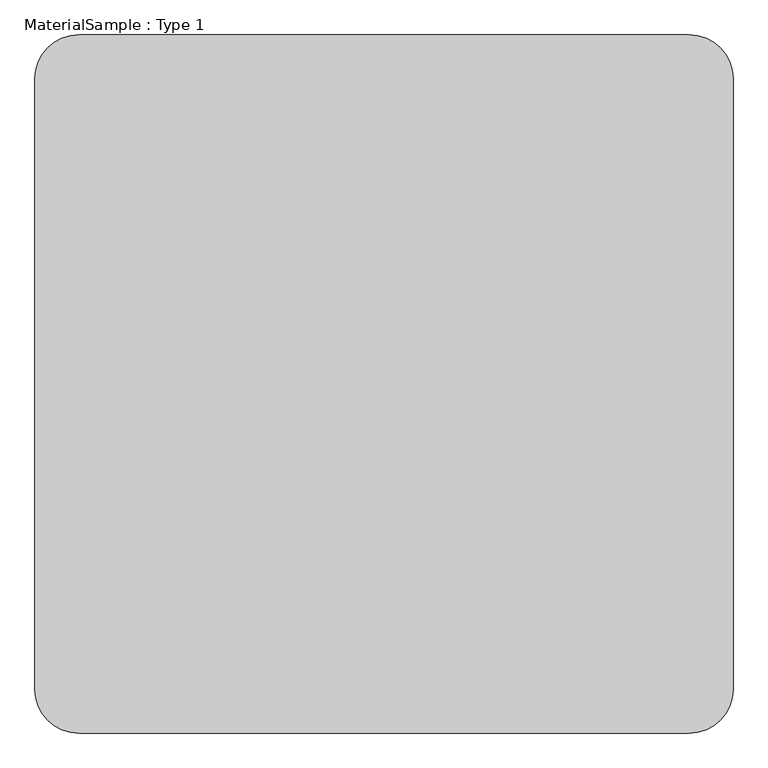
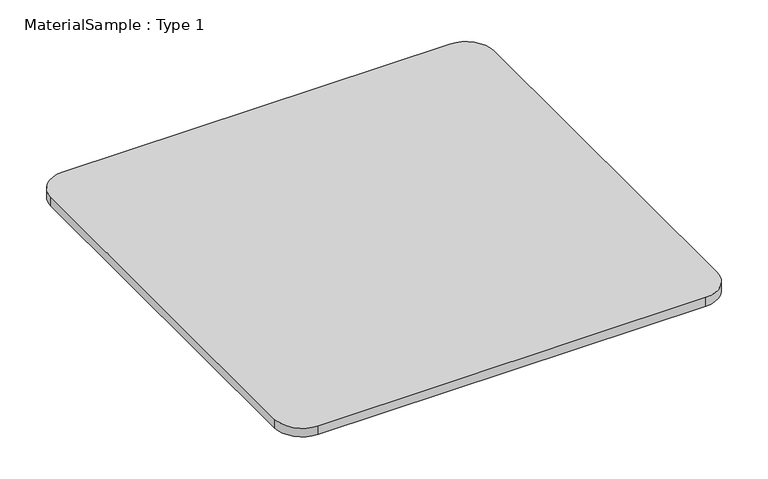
"""IFC4 building model written with IfcOpenShell, lengths in millimetres: proxy geometry, MaterialSample : Type 1."""

from ifc_helpers import new_model, si_unit, point, frame_2d, origin, origin_with_axes, place, context, project, spatial, polyline, circle_curve, trimmed, segment, composite_curve, outline, extrude, source, transform, mapped, element, save


def materialsample_type_1_fd88ffb6(model_context):
    return source(origin(), model_context, "Body", "SweptSolid", [
        extrude(outline(composite_curve([segment(polyline([(1143.0, 0.0), (76.2, 0.0)]), True, "CONTINUOUS"), segment(trimmed(circle_curve(frame_2d((76.2, 76.2)), 76.2), [point((76.2, 0.0))], [point((0.0, 76.2))], False, "CARTESIAN"), True, "CONTINUOUS"), segment(polyline([(0.0, 76.2), (0.0, 1143.0)]), True, "CONTINUOUS"), segment(trimmed(circle_curve(frame_2d((76.2, 1143.0)), 76.2), [point((0.0, 1143.0))], [point((76.2, 1219.2))], False, "CARTESIAN"), True, "CONTINUOUS"), segment(polyline([(76.2, 1219.2), (1143.0, 1219.2)]), True, "CONTINUOUS"), segment(trimmed(circle_curve(frame_2d((1143.0, 1143.0)), 76.2), [point((1143.0, 1219.2))], [point((1219.2, 1143.0))], False, "CARTESIAN"), True, "CONTINUOUS"), segment(polyline([(1219.2, 1143.0), (1219.2, 76.2)]), True, "CONTINUOUS"), segment(trimmed(circle_curve(frame_2d((1143.0, 76.2)), 76.2), [point((1219.2, 76.2))], [point((1143.0, 0.0))], False, "CARTESIAN"), True, "CONTINUOUS")], self_intersect=False)), origin_with_axes(), (0.0, 0.0, 1.0), 25.4),
    ])


if __name__ == "__main__":
    model = new_model("IFC4")
    model_context = context("Model", 3, world=origin())
    ifc_project = project(units=[si_unit("LENGTHUNIT", "METRE", prefix="MILLI")], contexts=[model_context])
    site = spatial("IfcSite", under=ifc_project)
    building = spatial("IfcBuilding", under=site)
    placement = place(None, origin())
    materialsample_type_1_shape = materialsample_type_1_fd88ffb6(model_context)
    element("IfcBuildingElementProxy", 1, Name="MaterialSample : Type 1", ObjectType="MaterialSample : Type 1", at=placement, inside=building, context=model_context, shape_type="MappedRepresentation", body=[
        mapped(materialsample_type_1_shape, transform((0.0, 0.0, 0.0), x_axis=(1.0, 0.0, 0.0), y_axis=(0.0, 1.0, 0.0), z_axis=(0.0, 0.0, 1.0))),
    ])
    save(model, "model.ifc")
